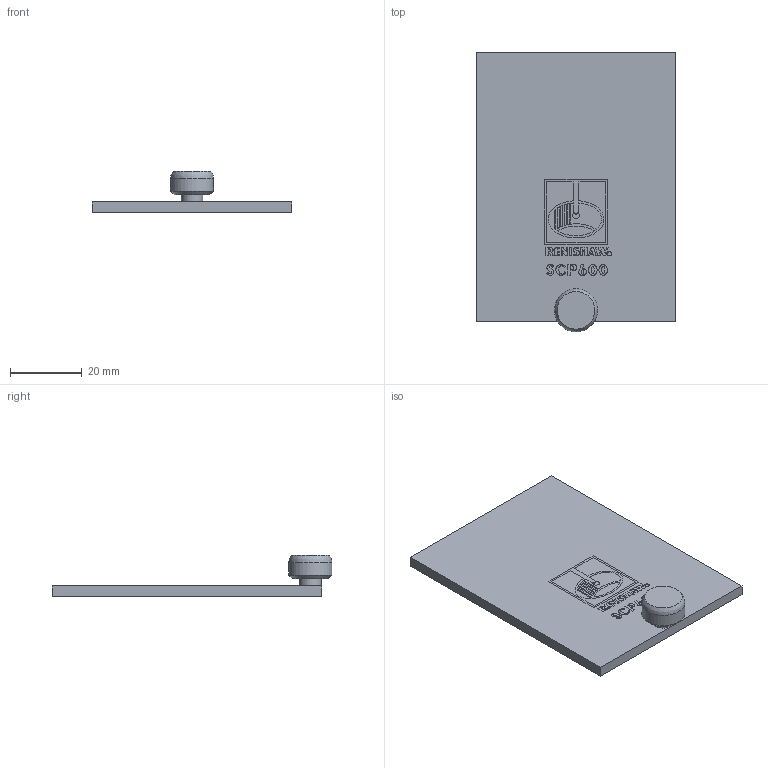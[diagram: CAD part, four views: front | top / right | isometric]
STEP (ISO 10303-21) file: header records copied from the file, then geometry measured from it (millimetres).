
FILE_DESCRIPTION(/* description */ (''),/* implementation_level */ '2;1');
FILE_NAME(/* name */ 'LA-2098-0928#-A.stp',/* time_stamp */ '2012-09-07T10:09:32+01:00',/* author */ (''),/* organization */ (''),/* preprocessor_version */ 'ST-DEVELOPER v11',/* originating_system */ 'SIEMENS PLM Software NX 7.5',/* authorisation */ '');
FILE_SCHEMA (('AUTOMOTIVE_DESIGN { 1 0 10303 214 1 1 1 1 }'));
Length unit declared in the file: millimetre
Products named in the file (1): rt13371Ayv15
Bounding box: 55.5 x 77.8 x 11.5 mm (x, y, z)
Volume: 13243.8 mm3; surface area: 9513.9 mm2
Topology: 1 solids, 1 shells, 42 faces, 205 edges, 197 vertices
Faces by surface type: plane 30, bspline 9, cylinder 2, cone 1
Full cylindrical faces by diameter (mm): 6 x1, 12 x1
Entity records: 2873 total; most frequent: CARTESIAN_POINT 1091, ORIENTED_EDGE 396, EDGE_CURVE 198, VERTEX_POINT 194, DIRECTION 146, B_SPLINE_CURVE_WITH_KNOTS 145, EDGE_LOOP 78, AXIS2_PLACEMENT_3D 59
